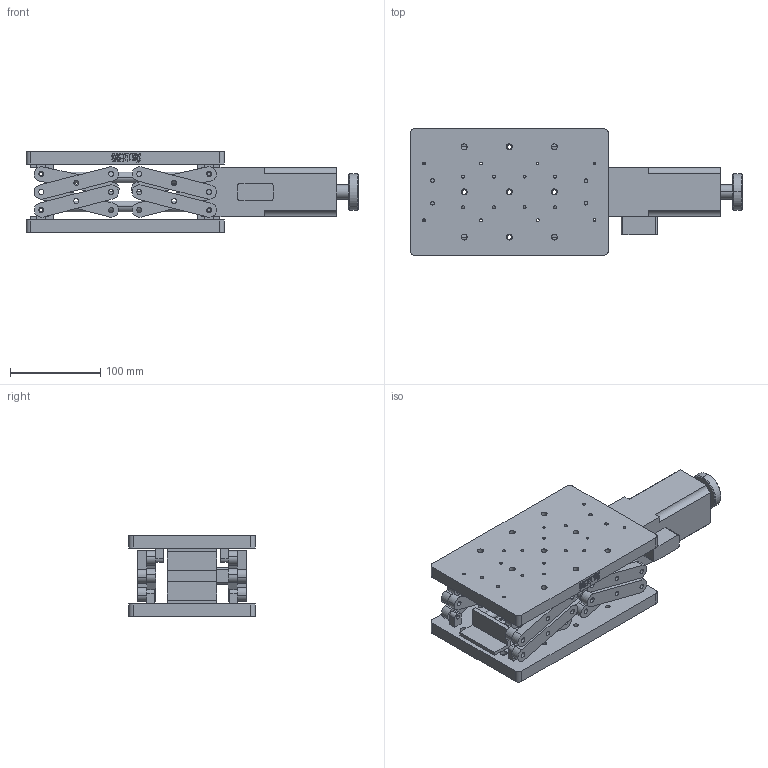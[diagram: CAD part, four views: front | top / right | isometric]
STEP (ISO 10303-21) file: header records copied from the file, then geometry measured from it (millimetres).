
FILE_DESCRIPTION (( 'STEP AP214' ), '1' );
FILE_NAME ('PT-GD402.STEP', '2022-09-24T08:30:23', ( '' ), ( '' ), 'SwSTEP 2.0', 'SolidWorks 2017', '' );
FILE_SCHEMA (( 'AUTOMOTIVE_DESIGN' ));
Length unit declared in the file: millimetre
Products named in the file (9): 錨璃7^PT-GD402; 錨璃5^PT-GD402; 錨璃4^PT-GD402; 錨璃3^PT-GD402; 錨璃1^PT-GD402; 錨璃8^PT-GD402; 錨璃2^PT-GD402; PT-GD402; 錨璃6^PT-GD402
Assembly tree (31 placements, depth 2):
  PT-GD402
    錨璃1^PT-GD402
    錨璃2^PT-GD402
    錨璃3^PT-GD402  x2
    錨璃4^PT-GD402  x16
    錨璃5^PT-GD402  x8
    錨璃6^PT-GD402
    錨璃7^PT-GD402
    錨璃8^PT-GD402
Bounding box: 368 x 140 x 90 mm (x, y, z)
Volume: 1664053.3 mm3; surface area: 339543.2 mm2
Topology: 31 solids, 31 shells, 729 faces, 1885 edges, 1256 vertices
Faces by surface type: cylinder 350, plane 299, bspline 76, cone 4
Entity records: 17776 total; most frequent: CARTESIAN_POINT 6126, ORIENTED_EDGE 2348, DIRECTION 2198, EDGE_CURVE 1174, VERTEX_POINT 782, AXIS2_PLACEMENT_3D 774, LINE 650, VECTOR 650
